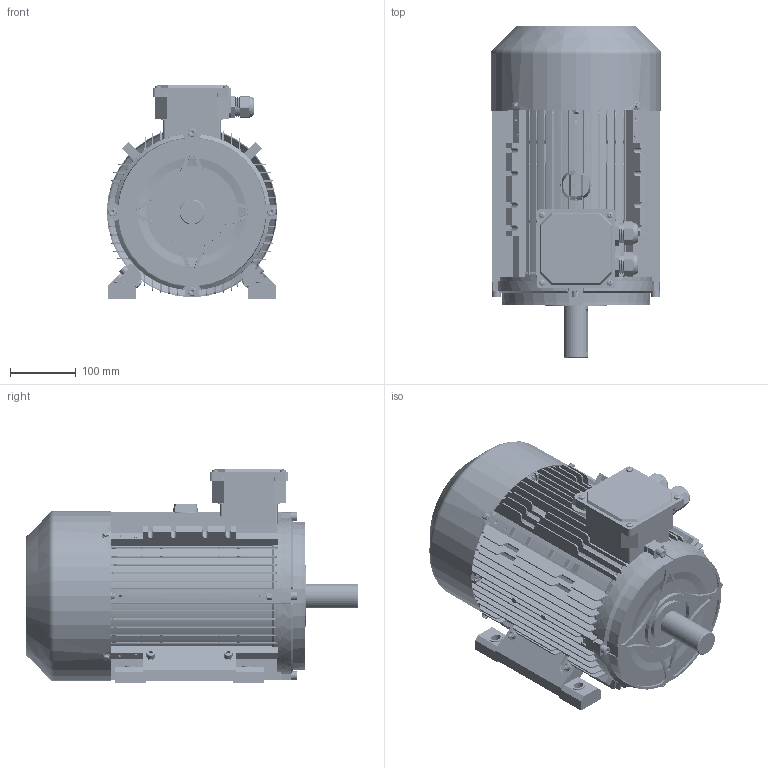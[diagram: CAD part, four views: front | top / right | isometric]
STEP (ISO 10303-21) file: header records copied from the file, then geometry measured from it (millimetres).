
FILE_DESCRIPTION (( 'STEP AP203' ), '1' );
FILE_NAME ('ME3-132M B3 3D.STEP', '2024-07-27T01:50:27', ( 'User' ), ( 'China' ), 'SwSTEP 2.0', 'SolidWorks 2018', '' );
FILE_SCHEMA (( 'CONFIG_CONTROL_DESIGN' ));
Length unit declared in the file: millimetre
Products named in the file (18): ME3-132瑞欶; ME3-132M蛌粣; hex flange bolts-heavy grade b gb_GB_FASTENER_BOLT_HFBB M5X10-S; MS112-132 諉盄碟釱; MS112-132諉盄碟裔; M24 蹟杶; cross recessed pan head screws gb_GB_CROSS_SCREWS_TYPE1 M5X6-6  H type-S; M24 蹟杶簸; 40X58X7蚐猾; spring lock washers--normal type gb_GB_FASTENER_WASHER_SW 8; ME3-132M儂褲; ME3-132M B3  3D; hexagon socket head cap screws gb_GB_FASTENER_SCREWS_HSHCS M8X30-S; ME3-132M菁褐; hexagon socket head cap screws gb_GB_FASTENER_SCREWS_HSHCS M8X40-S; ME3-132 B3傷裔; hex nuts-style normal-grades ab gb_GB_HEXAGON_TYPE10 M8X1-S; deep groove ball bearings gb_Rolling bearings 6308 GB 276-94
Assembly tree (51 placements, depth 2):
  ME3-132M B3  3D
    ME3-132M儂褲
    ME3-132M菁褐  x2
    ME3-132 B3傷裔  x2
    deep groove ball bearings gb_Rolling bearings 6308 GB 276-94  x2
    ME3-132M蛌粣
    MS112-132 諉盄碟釱
    M24 蹟杶  x2
    M24 蹟杶簸  x2
    spring lock washers--normal type gb_GB_FASTENER_WASHER_SW 8  x4
    hexagon socket head cap screws gb_GB_FASTENER_SCREWS_HSHCS M8X30-S  x5
    hexagon socket head cap screws gb_GB_FASTENER_SCREWS_HSHCS M8X40-S  x7
    hex nuts-style normal-grades ab gb_GB_HEXAGON_TYPE10 M8X1-S  x11
    ME3-132瑞欶
    hex flange bolts-heavy grade b gb_GB_FASTENER_BOLT_HFBB M5X10-S  x4
    MS112-132諉盄碟裔
    cross recessed pan head screws gb_GB_CROSS_SCREWS_TYPE1 M5X6-6  H type-S  x4
    40X58X7蚐猾
Bounding box: 259.6 x 505.15 x 325 mm (x, y, z)
Volume: 3801735.1 mm3; surface area: 1921587.3 mm2
Topology: 53 solids, 54 shells, 8021 faces, 19677 edges, 11747 vertices
Faces by surface type: cone 2871, plane 2530, cylinder 2252, torus 254, sphere 68, bspline 46
Entity records: 131929 total; most frequent: CARTESIAN_POINT 33159, ORIENTED_EDGE 20670, DIRECTION 19200, EDGE_CURVE 10335, LINE 6614, VECTOR 6614, VERTEX_POINT 6605, AXIS2_PLACEMENT_3D 6293
